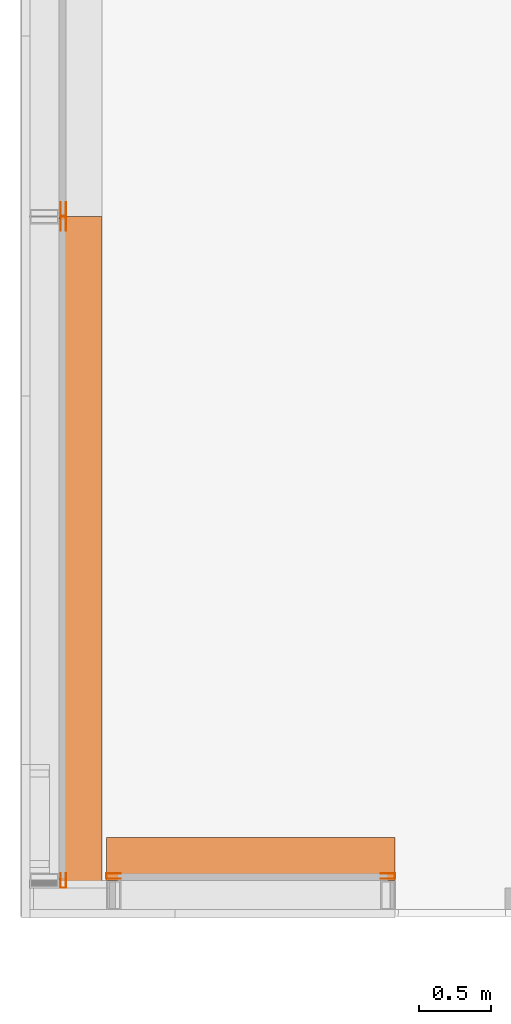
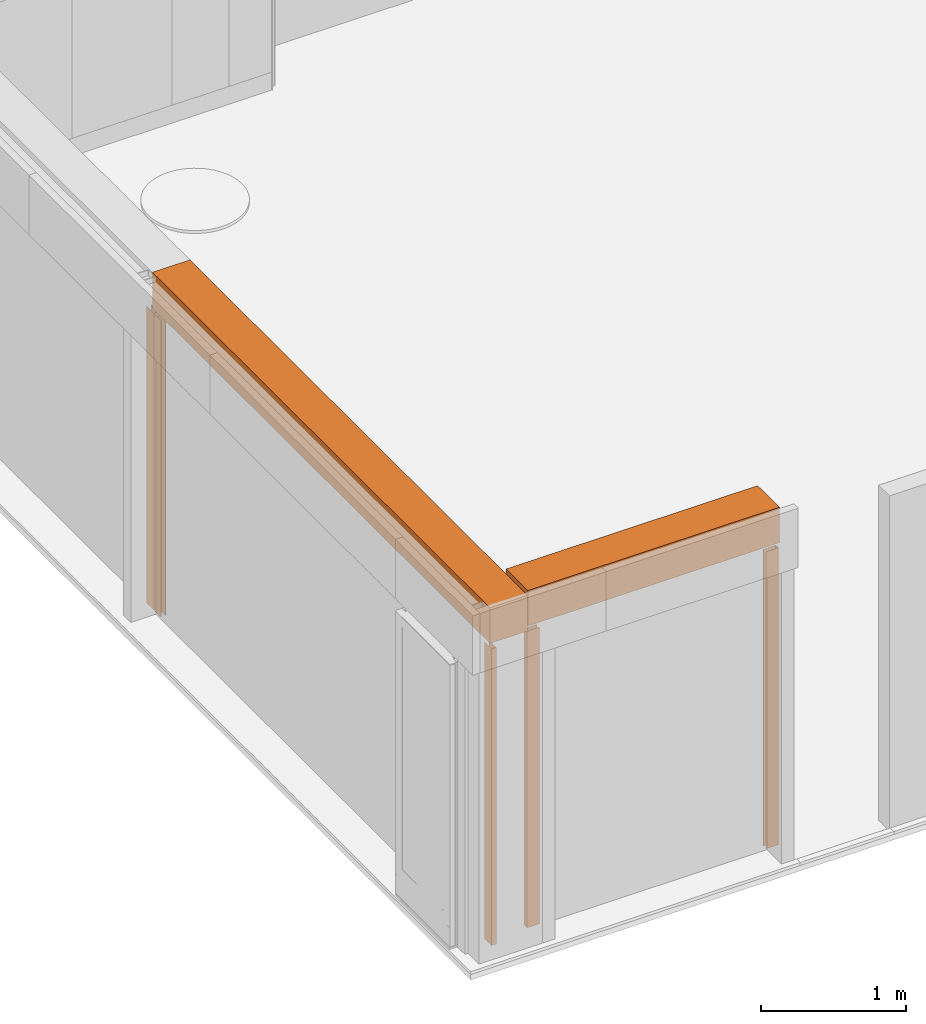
# One storey, part 11 of 14: 7 proxies.
"""IFC2X3 building model written with IfcOpenShell, lengths in millimetres."""

from ifc_helpers import new_model, entity, si_unit, converted_unit, derived_unit, direction, frame, frame_2d, origin, origin_with_axes, place, context, subcontext, project, spatial, polyline, rectangle, outline, extrude, source, transform, mapped, material, type_object, element, save


model = new_model("IFC2X3")

# Units and contexts
model_context = context("Model", 3, precision=0.01, world=frame((0.0, 4.29681676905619e-09, 0.0)), true_north=direction((4.01073788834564e-13, 1.0)))
plan_context = context("Plan", 3, precision=0.01, world=frame((0.0, 4.29681676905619e-09, 0.0)), true_north=direction((4.01073788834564e-13, 1.0)))
body_context = subcontext(model_context, "Body", "Model", "MODEL_VIEW")
ifc_project = project(units=[converted_unit("PLANEANGLEUNIT", "DEGREE", entity("IfcPositiveLengthMeasure", 0.0174532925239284), si_unit("PLANEANGLEUNIT", "RADIAN"), dimensions=[0, 0, 0, 0, 0, 0, 0]), si_unit("AREAUNIT", "SQUARE_METRE"), si_unit("LENGTHUNIT", "METRE", prefix="MILLI"), si_unit("MASSUNIT", "GRAM", prefix="KILO"), si_unit("POWERUNIT", "WATT"), si_unit("PRESSUREUNIT", "PASCAL"), si_unit("FORCEUNIT", "NEWTON", prefix="KILO"), si_unit("ELECTRICVOLTAGEUNIT", "VOLT"), si_unit("ELECTRICCURRENTUNIT", "AMPERE"), si_unit("THERMODYNAMICTEMPERATUREUNIT", "DEGREE_CELSIUS"), si_unit("TIMEUNIT", "SECOND"), si_unit("VOLUMEUNIT", "CUBIC_METRE"), derived_unit("LINEARVELOCITYUNIT", [(si_unit("LENGTHUNIT", "METRE"), 1), (si_unit("TIMEUNIT", "SECOND"), -1)]), derived_unit("VOLUMETRICFLOWRATEUNIT", [(si_unit("VOLUMEUNIT", "CUBIC_METRE"), 1), (si_unit("TIMEUNIT", "SECOND"), -1)]), derived_unit("THERMALTRANSMITTANCEUNIT", [(si_unit("POWERUNIT", "WATT"), 1), (si_unit("THERMODYNAMICTEMPERATUREUNIT", "KELVIN"), -1), (si_unit("AREAUNIT", "SQUARE_METRE"), -1)]), derived_unit("SOUNDPRESSUREUNIT", [(si_unit("PRESSUREUNIT", "PASCAL"), 1)])], contexts=[model_context, plan_context])

# Site, building, storey
site_placement = place(None, origin_with_axes())
site = spatial("IfcSite", under=ifc_project, at=site_placement, Name="ENGM", CompositionType="ELEMENT")
building_placement = place(site_placement, origin_with_axes())
building = spatial("IfcBuilding", under=site, at=building_placement, Name="TI", CompositionType="ELEMENT")
storey_placement = place(building_placement, frame((0.0, 0.0, 210900.0), z_axis=(0.0, 0.0, 1.0), x_axis=(1.0, 0.0, 0.0)))
storey = spatial("IfcBuildingStorey", under=building, at=storey_placement, Name="Nivå F", CompositionType="ELEMENT", Elevation=210900.0)

# Proxies
ifc_material = material(Name="<Unnamed>")
building_element_proxy_type_1 = type_object("IfcBuildingElementProxyType", Name="A36 - Føringsskinner rullegitter:A36 - Føringsskinner rullegitter", PredefinedType="NOTDEFINED", material=ifc_material)
shared_shape_1 = source(origin(), body_context, "Body", "SweptSolid", [
    extrude(outline(polyline([(-19.0000000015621, -49.4999999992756), (-17.0000000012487, -49.4999999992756), (-16.9999999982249, 48.5000000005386), (17.0000000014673, 48.4999999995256), (16.9999999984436, -49.5000000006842), (18.999999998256, -49.5000000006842), (19.0000000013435, 50.4999999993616), (-18.9999999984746, 50.5000000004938), (-19.0000000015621, -49.4999999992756)])), frame((0.0, -0.499999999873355, 0.0)), (0.0, 0.0, 1.0), 2500.0),
])
proxy_1_placement = place(storey_placement, frame((598300.958774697, 693812.499999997, 0.0), z_axis=(0.0, 0.0, 1.0), x_axis=(1.0, 0.0, 0.0)))
element("IfcBuildingElementProxy", 1, at=proxy_1_placement, inside=storey, type_object=building_element_proxy_type_1, material=ifc_material, Name="A36 - Føringsskinner rullegitter:A36 - Føringsskinner rullegitter", ObjectType="A36 - Føringsskinner rullegitter:A36 - Føringsskinner rullegitter", context=body_context, shape_type="MappedRepresentation", body=[
    mapped(shared_shape_1, transform((0.0, 0.0, 0.0), scale=1.0)),
])
building_element_proxy_type_2 = type_object("IfcBuildingElementProxyType", Name="A36 - Føringsskinner rullegitter:A36 - Føringsskinner rullegitter", PredefinedType="NOTDEFINED", material=ifc_material)
shared_shape_2 = source(origin(), body_context, "Body", "SweptSolid", [
    extrude(outline(polyline([(-49.4999999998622, -19.0), (50.4999999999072, -19.0), (50.4999999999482, 19.0), (-49.5000000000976, 19.0), (-49.5000000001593, 17.0), (48.5000000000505, 17.0), (48.5000000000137, -17.0), (-49.4999999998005, -17.0), (-49.4999999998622, -19.0)])), frame((0.0, 0.499999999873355, 0.0), z_axis=(0.0, 0.0, 1.0), x_axis=(0.0, -1.0, 0.0)), (0.0, 0.0, 1.0), 2500.0),
])
for number, where, z_axis, x_axis, name in (
    (2, (598300.958774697, 693912.499999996, 0.0), (0.0, 0.0, 1.0), (1.0, 0.0, 0.0), "A36 - Føringsskinner rullegitter:A36 - Føringsskinner rullegitter"),
    (3, (598300.958774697, 689249.999999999, 0.0), (0.0, 0.0, 1.0), (1.0, 0.0, 0.0), "A36 - Føringsskinner rullegitter:A36 - Føringsskinner rullegitter"),
    (4, (598649.99999994, 689281.00481751, 0.0), (0.0, 0.0, 1.0), (0.0, -1.0, 0.0), "A36 - Føringsskinner rullegitter:A36 - Føringsskinner rullegitter"),
    (5, (600555.000000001, 689281.005648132, 0.0), (0.0, 0.0, 1.0), (0.0, 1.0, 0.0), "A36 - Føringsskinner rullegitter:A36 - Føringsskinner rullegitter"),
):
    element("IfcBuildingElementProxy", number, at=place(storey_placement, frame(where, z_axis=z_axis, x_axis=x_axis)), inside=storey, type_object=building_element_proxy_type_2, material=ifc_material, Name=name, ObjectType="A36 - Føringsskinner rullegitter:A36 - Føringsskinner rullegitter", context=body_context, shape_type="MappedRepresentation", body=[
        mapped(shared_shape_2, transform((0.0, 0.0, 0.0), scale=1.0)),
    ])
building_element_proxy_type_3 = type_object("IfcBuildingElementProxyType", Name="A234 - Gitter:A241 - Gitter 300 x 300_UK_2550", PredefinedType="NOTDEFINED", material=ifc_material)
shared_shape_3 = source(origin(), body_context, "Body", "SweptSolid", [
    extrude(rectangle(XDim=300.0, YDim=4662.49999999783, at=frame_2d((0.0, -1.75077730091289e-11), x_axis=(1.0, 0.0))), frame((2331.24999999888, -120.0, 2550.0), z_axis=(0.0, 0.0, 1.0), x_axis=(0.0, 1.0, 0.0)), (0.0, 0.0, 1.0), 300.0),
])
proxy_2_placement = place(storey_placement, frame((598299.999999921, 689199.999999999, 0.0), z_axis=(0.0, 0.0, 1.0), x_axis=(0.0, 1.0, 0.0)))
element("IfcBuildingElementProxy", 6, at=proxy_2_placement, inside=storey, type_object=building_element_proxy_type_3, material=ifc_material, Name="A234 - Gitter:A241 - Gitter 300 x 300_UK_2550", ObjectType="A234 - Gitter:A241 - Gitter 300 x 300_UK_2550", context=body_context, shape_type="MappedRepresentation", body=[
    mapped(shared_shape_3, transform((0.0, 0.0, 0.0), scale=1.0)),
])
building_element_proxy_type_4 = type_object("IfcBuildingElementProxyType", Name="A234 - Gitter:A241 - Gitter 300 x 300_UK_2550", PredefinedType="NOTDEFINED", material=ifc_material)
shared_shape_4 = source(origin(), body_context, "Body", "SweptSolid", [
    extrude(rectangle(XDim=300.0, YDim=2005.00000006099, at=frame_2d((0.0, -1.70530256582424e-13), x_axis=(1.0, 0.0))), frame((1002.50000003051, -120.0, 2550.0), z_axis=(0.0, 0.0, 1.0), x_axis=(0.0, 1.0, 0.0)), (0.0, 0.0, 1.0), 300.0),
])
proxy_3_placement = place(storey_placement, frame((600605.000000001, 689279.999999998, 0.0), z_axis=(0.0, 0.0, 1.0), x_axis=(-1.0, 0.0, 0.0)))
element("IfcBuildingElementProxy", 7, at=proxy_3_placement, inside=storey, type_object=building_element_proxy_type_4, material=ifc_material, Name="A234 - Gitter:A241 - Gitter 300 x 300_UK_2550", ObjectType="A234 - Gitter:A241 - Gitter 300 x 300_UK_2550", context=body_context, shape_type="MappedRepresentation", body=[
    mapped(shared_shape_4, transform((0.0, 0.0, 0.0), scale=1.0)),
])

save(model, "model.ifc")
